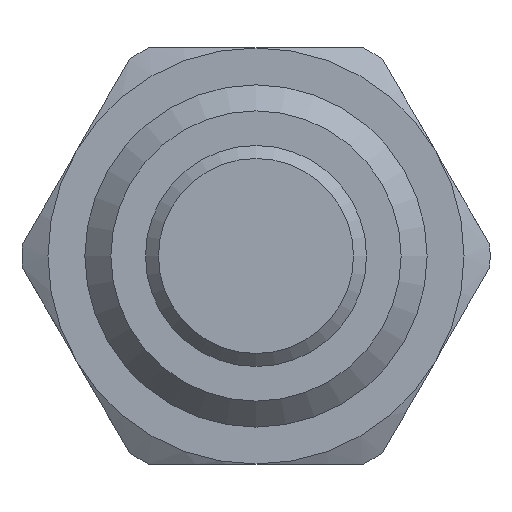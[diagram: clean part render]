
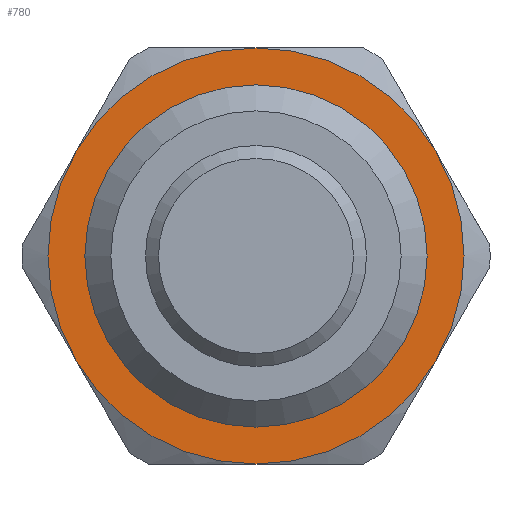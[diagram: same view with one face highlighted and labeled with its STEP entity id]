
A CAD part, left-side view. The second image highlights one B-rep face of the part: STEP entity #780.
In plain terms, the highlighted planar face has unit normal (-1, 0, 0).
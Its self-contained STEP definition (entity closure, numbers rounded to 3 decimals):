
#4 = EDGE_LOOP ( 'NONE', ( #383 ) ) ;
#21 = VERTEX_POINT ( 'NONE', #833 ) ;
#31 = AXIS2_PLACEMENT_3D ( 'NONE', #146, #151, #764 ) ;
#41 = ORIENTED_EDGE ( 'NONE', *, *, #1102, .F. ) ;
#47 = DIRECTION ( 'NONE',  ( 1., 0., 0. ) ) ;
#72 = AXIS2_PLACEMENT_3D ( 'NONE', #661, #47, #465 ) ;
#114 = ORIENTED_EDGE ( 'NONE', *, *, #731, .F. ) ;
#124 = CIRCLE ( 'NONE', #278, 8. ) ;
#135 = DIRECTION ( 'NONE',  ( 1., 0., 0. ) ) ;
#146 = CARTESIAN_POINT ( 'NONE',  ( 72., 6.858, 0. ) ) ;
#151 = DIRECTION ( 'NONE',  ( 1., 0., 0. ) ) ;
#158 = CARTESIAN_POINT ( 'NONE',  ( 72., -6.928, 4. ) ) ;
#176 = DIRECTION ( 'NONE',  ( 0., 0., -1. ) ) ;
#227 = CARTESIAN_POINT ( 'NONE',  ( 72., -6.928, -4. ) ) ;
#232 = CARTESIAN_POINT ( 'NONE',  ( 72., 0., 0. ) ) ;
#258 = ORIENTED_EDGE ( 'NONE', *, *, #1121, .F. ) ;
#269 = VERTEX_POINT ( 'NONE', #796 ) ;
#270 = ORIENTED_EDGE ( 'NONE', *, *, #324, .F. ) ;
#278 = AXIS2_PLACEMENT_3D ( 'NONE', #1152, #791, #176 ) ;
#298 = DIRECTION ( 'NONE',  ( 0., 0., -1. ) ) ;
#301 = VERTEX_POINT ( 'NONE', #752 ) ;
#305 = CIRCLE ( 'NONE', #511, 8. ) ;
#306 = CARTESIAN_POINT ( 'NONE',  ( 72., 0., 0. ) ) ;
#315 = DIRECTION ( 'NONE',  ( -1., 0., 0. ) ) ;
#324 = EDGE_CURVE ( 'NONE', #1024, #269, #124, .T. ) ;
#353 = ORIENTED_EDGE ( 'NONE', *, *, #669, .F. ) ;
#356 = AXIS2_PLACEMENT_3D ( 'NONE', #955, #315, #584 ) ;
#382 = DIRECTION ( 'NONE',  ( 0., 0., -1. ) ) ;
#383 = ORIENTED_EDGE ( 'NONE', *, *, #919, .F. ) ;
#397 = CIRCLE ( 'NONE', #954, 8. ) ;
#402 = CARTESIAN_POINT ( 'NONE',  ( 72., 0., 8. ) ) ;
#413 = EDGE_CURVE ( 'NONE', #269, #301, #397, .T. ) ;
#431 = VERTEX_POINT ( 'NONE', #402 ) ;
#465 = DIRECTION ( 'NONE',  ( 0., 0., -1. ) ) ;
#511 = AXIS2_PLACEMENT_3D ( 'NONE', #659, #135, #747 ) ;
#583 = CIRCLE ( 'NONE', #356, 5.5 ) ;
#584 = DIRECTION ( 'NONE',  ( 0., 0., 1. ) ) ;
#633 = CIRCLE ( 'NONE', #72, 8. ) ;
#638 = DIRECTION ( 'NONE',  ( 1., 0., 0. ) ) ;
#659 = CARTESIAN_POINT ( 'NONE',  ( 72., 0., 0. ) ) ;
#661 = CARTESIAN_POINT ( 'NONE',  ( 72., 0., 0. ) ) ;
#669 = EDGE_CURVE ( 'NONE', #431, #896, #305, .T. ) ;
#672 = FACE_BOUND ( 'NONE', #4, .T. ) ;
#673 = PLANE ( 'NONE',  #31 ) ;
#731 = EDGE_CURVE ( 'NONE', #854, #431, #1114, .T. ) ;
#747 = DIRECTION ( 'NONE',  ( 0., 0., -1. ) ) ;
#752 = CARTESIAN_POINT ( 'NONE',  ( 72., 6.928, -4. ) ) ;
#764 = DIRECTION ( 'NONE',  ( 0., 0., -1. ) ) ;
#780 = ADVANCED_FACE ( 'NONE', ( #1058, #672 ), #673, .F. ) ;
#791 = DIRECTION ( 'NONE',  ( 1., 0., 0. ) ) ;
#796 = CARTESIAN_POINT ( 'NONE',  ( 72., 0., -8. ) ) ;
#833 = CARTESIAN_POINT ( 'NONE',  ( 72., 0., 5.5 ) ) ;
#854 = VERTEX_POINT ( 'NONE', #1145 ) ;
#860 = DIRECTION ( 'NONE',  ( 0., 0., -1. ) ) ;
#883 = AXIS2_PLACEMENT_3D ( 'NONE', #306, #947, #382 ) ;
#896 = VERTEX_POINT ( 'NONE', #158 ) ;
#919 = EDGE_CURVE ( 'NONE', #21, #21, #583, .T. ) ;
#927 = AXIS2_PLACEMENT_3D ( 'NONE', #1026, #939, #298 ) ;
#939 = DIRECTION ( 'NONE',  ( 1., 0., 0. ) ) ;
#947 = DIRECTION ( 'NONE',  ( 1., 0., 0. ) ) ;
#953 = EDGE_LOOP ( 'NONE', ( #980, #270, #258, #353, #114, #41 ) ) ;
#954 = AXIS2_PLACEMENT_3D ( 'NONE', #232, #638, #860 ) ;
#955 = CARTESIAN_POINT ( 'NONE',  ( 72., 0., 0. ) ) ;
#980 = ORIENTED_EDGE ( 'NONE', *, *, #413, .F. ) ;
#1024 = VERTEX_POINT ( 'NONE', #227 ) ;
#1026 = CARTESIAN_POINT ( 'NONE',  ( 72., 0., 0. ) ) ;
#1058 = FACE_OUTER_BOUND ( 'NONE', #953, .T. ) ;
#1060 = CIRCLE ( 'NONE', #927, 8. ) ;
#1102 = EDGE_CURVE ( 'NONE', #301, #854, #1060, .T. ) ;
#1114 = CIRCLE ( 'NONE', #883, 8. ) ;
#1121 = EDGE_CURVE ( 'NONE', #896, #1024, #633, .T. ) ;
#1145 = CARTESIAN_POINT ( 'NONE',  ( 72., 6.928, 4. ) ) ;
#1152 = CARTESIAN_POINT ( 'NONE',  ( 72., 0., 0. ) ) ;
